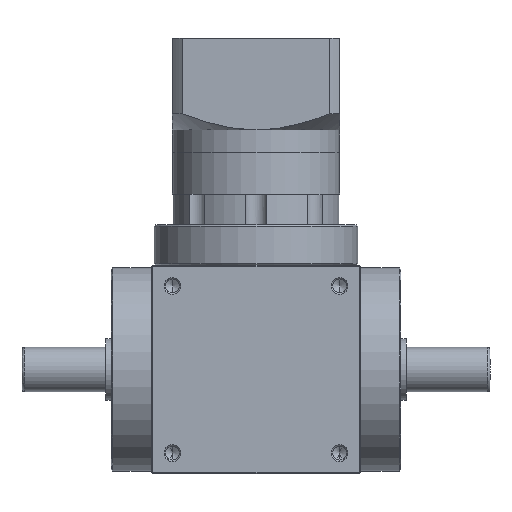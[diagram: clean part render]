
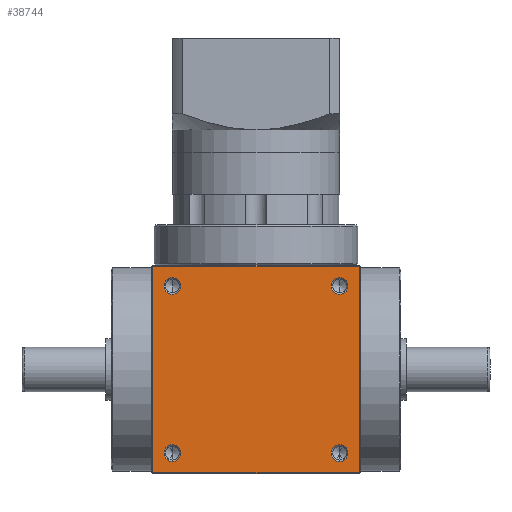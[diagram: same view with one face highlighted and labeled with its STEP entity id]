
A CAD part, front view. The second image highlights one B-rep face of the part: STEP entity #38744.
In plain terms, the highlighted planar face has unit normal (0, -1, 0).
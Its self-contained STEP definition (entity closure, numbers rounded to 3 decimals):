
#1468 = EDGE_CURVE ( 'NONE', #53067, #10156, #19412, .T. ) ;
#2191 = CARTESIAN_POINT ( 'NONE',  ( -37., -37.5, 74.5 ) ) ;
#3204 = DIRECTION ( 'NONE',  ( 0., 1., 0. ) ) ;
#3290 = DIRECTION ( 'NONE',  ( 0., -1., 0. ) ) ;
#3463 = AXIS2_PLACEMENT_3D ( 'NONE', #32095, #7214, #36291 ) ;
#3612 = ORIENTED_EDGE ( 'NONE', *, *, #10624, .F. ) ;
#4097 = DIRECTION ( 'NONE',  ( 0., 0., -1. ) ) ;
#4589 = CARTESIAN_POINT ( 'NONE',  ( 37., -37.5, 0.5 ) ) ;
#4702 = EDGE_CURVE ( 'NONE', #49599, #50462, #31843, .T. ) ;
#7214 = DIRECTION ( 'NONE',  ( 0., -1., 0. ) ) ;
#7508 = ORIENTED_EDGE ( 'NONE', *, *, #39403, .F. ) ;
#8106 = CARTESIAN_POINT ( 'NONE',  ( 37., -37.5, 75. ) ) ;
#8179 = DIRECTION ( 'NONE',  ( 0., -1., 0. ) ) ;
#8695 = VERTEX_POINT ( 'NONE', #22947 ) ;
#9414 = ORIENTED_EDGE ( 'NONE', *, *, #13521, .F. ) ;
#10156 = VERTEX_POINT ( 'NONE', #41601 ) ;
#10624 = EDGE_CURVE ( 'NONE', #8695, #39673, #52152, .T. ) ;
#10803 = FACE_BOUND ( 'NONE', #16184, .T. ) ;
#11286 = AXIS2_PLACEMENT_3D ( 'NONE', #24080, #53185, #28259 ) ;
#11738 = LINE ( 'NONE', #51457, #35146 ) ;
#11903 = DIRECTION ( 'NONE',  ( 0., 0., 1. ) ) ;
#12344 = CARTESIAN_POINT ( 'NONE',  ( -30., -37.5, 4.475 ) ) ;
#12781 = DIRECTION ( 'NONE',  ( 0., -1., 0. ) ) ;
#13521 = EDGE_CURVE ( 'NONE', #52368, #43665, #36426, .T. ) ;
#13548 = CIRCLE ( 'NONE', #14281, 3.025 ) ;
#13775 = ORIENTED_EDGE ( 'NONE', *, *, #25864, .F. ) ;
#14281 = AXIS2_PLACEMENT_3D ( 'NONE', #53920, #29000, #4097 ) ;
#14820 = CIRCLE ( 'NONE', #43964, 3.025 ) ;
#15388 = LINE ( 'NONE', #41279, #26420 ) ;
#16184 = EDGE_LOOP ( 'NONE', ( #9414, #7508 ) ) ;
#16376 = DIRECTION ( 'NONE',  ( 1., 0., 0. ) ) ;
#16501 = DIRECTION ( 'NONE',  ( 0., 0., 1. ) ) ;
#17267 = CIRCLE ( 'NONE', #27538, 3.025 ) ;
#17446 = AXIS2_PLACEMENT_3D ( 'NONE', #36472, #3204, #16501 ) ;
#17670 = VECTOR ( 'NONE', #11903, 1000. ) ;
#19412 = CIRCLE ( 'NONE', #29505, 3.025 ) ;
#20042 = CARTESIAN_POINT ( 'NONE',  ( 30., -37.5, 4.475 ) ) ;
#21213 = ORIENTED_EDGE ( 'NONE', *, *, #38349, .F. ) ;
#21472 = VERTEX_POINT ( 'NONE', #20042 ) ;
#22148 = CARTESIAN_POINT ( 'NONE',  ( 30., -37.5, 67.5 ) ) ;
#22170 = CIRCLE ( 'NONE', #45845, 3.025 ) ;
#22363 = VERTEX_POINT ( 'NONE', #41608 ) ;
#22947 = CARTESIAN_POINT ( 'NONE',  ( -37., -37.5, 0.5 ) ) ;
#22994 = CARTESIAN_POINT ( 'NONE',  ( -30., -37.5, 67.5 ) ) ;
#23271 = CARTESIAN_POINT ( 'NONE',  ( 37., -37.5, 74.5 ) ) ;
#23370 = VERTEX_POINT ( 'NONE', #37445 ) ;
#24080 = CARTESIAN_POINT ( 'NONE',  ( -30., -37.5, 67.5 ) ) ;
#24278 = ORIENTED_EDGE ( 'NONE', *, *, #40054, .F. ) ;
#25037 = CIRCLE ( 'NONE', #26506, 3.025 ) ;
#25496 = ORIENTED_EDGE ( 'NONE', *, *, #32535, .F. ) ;
#25864 = EDGE_CURVE ( 'NONE', #33885, #23370, #27914, .T. ) ;
#26312 = DIRECTION ( 'NONE',  ( 0., 0., -1. ) ) ;
#26420 = VECTOR ( 'NONE', #16376, 1000. ) ;
#26506 = AXIS2_PLACEMENT_3D ( 'NONE', #37672, #12781, #41876 ) ;
#26542 = DIRECTION ( 'NONE',  ( -1., 0., 0. ) ) ;
#27152 = DIRECTION ( 'NONE',  ( 0., 0., -1. ) ) ;
#27538 = AXIS2_PLACEMENT_3D ( 'NONE', #22994, #52078, #27152 ) ;
#27914 = CIRCLE ( 'NONE', #11286, 3.025 ) ;
#28200 = CARTESIAN_POINT ( 'NONE',  ( 30., -37.5, 67.5 ) ) ;
#28259 = DIRECTION ( 'NONE',  ( 0., 0., -1. ) ) ;
#29000 = DIRECTION ( 'NONE',  ( 0., -1., 0. ) ) ;
#29145 = CARTESIAN_POINT ( 'NONE',  ( -30., -37.5, 64.475 ) ) ;
#29505 = AXIS2_PLACEMENT_3D ( 'NONE', #28200, #3290, #32374 ) ;
#30807 = EDGE_LOOP ( 'NONE', ( #45348, #39307 ) ) ;
#31606 = FACE_BOUND ( 'NONE', #43376, .T. ) ;
#31661 = EDGE_LOOP ( 'NONE', ( #13775, #46991 ) ) ;
#31843 = LINE ( 'NONE', #8106, #52667 ) ;
#32095 = CARTESIAN_POINT ( 'NONE',  ( -30., -37.5, 7.5 ) ) ;
#32286 = PLANE ( 'NONE',  #17446 ) ;
#32374 = DIRECTION ( 'NONE',  ( 0., 0., -1. ) ) ;
#32535 = EDGE_CURVE ( 'NONE', #50462, #8695, #11738, .T. ) ;
#33063 = CARTESIAN_POINT ( 'NONE',  ( 30., -37.5, 7.5 ) ) ;
#33885 = VERTEX_POINT ( 'NONE', #29145 ) ;
#34200 = CARTESIAN_POINT ( 'NONE',  ( 30., -37.5, 70.525 ) ) ;
#35146 = VECTOR ( 'NONE', #26542, 1000. ) ;
#35534 = FACE_BOUND ( 'NONE', #30807, .T. ) ;
#36291 = DIRECTION ( 'NONE',  ( 0., 0., -1. ) ) ;
#36426 = CIRCLE ( 'NONE', #3463, 3.025 ) ;
#36472 = CARTESIAN_POINT ( 'NONE',  ( -37.5, -37.5, 75. ) ) ;
#36798 = CARTESIAN_POINT ( 'NONE',  ( -37., -37.5, 75. ) ) ;
#37237 = DIRECTION ( 'NONE',  ( 0., 0., -1. ) ) ;
#37445 = CARTESIAN_POINT ( 'NONE',  ( -30., -37.5, 70.525 ) ) ;
#37672 = CARTESIAN_POINT ( 'NONE',  ( -30., -37.5, 7.5 ) ) ;
#38349 = EDGE_CURVE ( 'NONE', #39673, #49599, #15388, .T. ) ;
#38744 = ADVANCED_FACE ( 'NONE', ( #43965, #31606, #35534, #10803, #53750 ), #32286, .F. ) ;
#39107 = EDGE_CURVE ( 'NONE', #23370, #33885, #17267, .T. ) ;
#39307 = ORIENTED_EDGE ( 'NONE', *, *, #48823, .F. ) ;
#39403 = EDGE_CURVE ( 'NONE', #43665, #52368, #25037, .T. ) ;
#39673 = VERTEX_POINT ( 'NONE', #2191 ) ;
#40054 = EDGE_CURVE ( 'NONE', #10156, #53067, #14820, .T. ) ;
#40542 = EDGE_LOOP ( 'NONE', ( #43300, #21213, #3612, #25496 ) ) ;
#41279 = CARTESIAN_POINT ( 'NONE',  ( -37.5, -37.5, 74.5 ) ) ;
#41364 = DIRECTION ( 'NONE',  ( 0., 0., -1. ) ) ;
#41601 = CARTESIAN_POINT ( 'NONE',  ( 30., -37.5, 64.475 ) ) ;
#41608 = CARTESIAN_POINT ( 'NONE',  ( 30., -37.5, 10.525 ) ) ;
#41876 = DIRECTION ( 'NONE',  ( 0., 0., -1. ) ) ;
#43300 = ORIENTED_EDGE ( 'NONE', *, *, #4702, .F. ) ;
#43376 = EDGE_LOOP ( 'NONE', ( #24278, #50797 ) ) ;
#43665 = VERTEX_POINT ( 'NONE', #45702 ) ;
#43964 = AXIS2_PLACEMENT_3D ( 'NONE', #22148, #51230, #26312 ) ;
#43965 = FACE_BOUND ( 'NONE', #31661, .T. ) ;
#45348 = ORIENTED_EDGE ( 'NONE', *, *, #53511, .F. ) ;
#45702 = CARTESIAN_POINT ( 'NONE',  ( -30., -37.5, 10.525 ) ) ;
#45845 = AXIS2_PLACEMENT_3D ( 'NONE', #33063, #8179, #37237 ) ;
#46991 = ORIENTED_EDGE ( 'NONE', *, *, #39107, .F. ) ;
#48823 = EDGE_CURVE ( 'NONE', #22363, #21472, #13548, .T. ) ;
#49599 = VERTEX_POINT ( 'NONE', #23271 ) ;
#50462 = VERTEX_POINT ( 'NONE', #4589 ) ;
#50797 = ORIENTED_EDGE ( 'NONE', *, *, #1468, .F. ) ;
#51230 = DIRECTION ( 'NONE',  ( 0., -1., 0. ) ) ;
#51457 = CARTESIAN_POINT ( 'NONE',  ( -37.5, -37.5, 0.5 ) ) ;
#52078 = DIRECTION ( 'NONE',  ( 0., -1., 0. ) ) ;
#52152 = LINE ( 'NONE', #36798, #17670 ) ;
#52368 = VERTEX_POINT ( 'NONE', #12344 ) ;
#52667 = VECTOR ( 'NONE', #41364, 1000. ) ;
#53067 = VERTEX_POINT ( 'NONE', #34200 ) ;
#53185 = DIRECTION ( 'NONE',  ( 0., -1., 0. ) ) ;
#53511 = EDGE_CURVE ( 'NONE', #21472, #22363, #22170, .T. ) ;
#53750 = FACE_OUTER_BOUND ( 'NONE', #40542, .T. ) ;
#53920 = CARTESIAN_POINT ( 'NONE',  ( 30., -37.5, 7.5 ) ) ;
